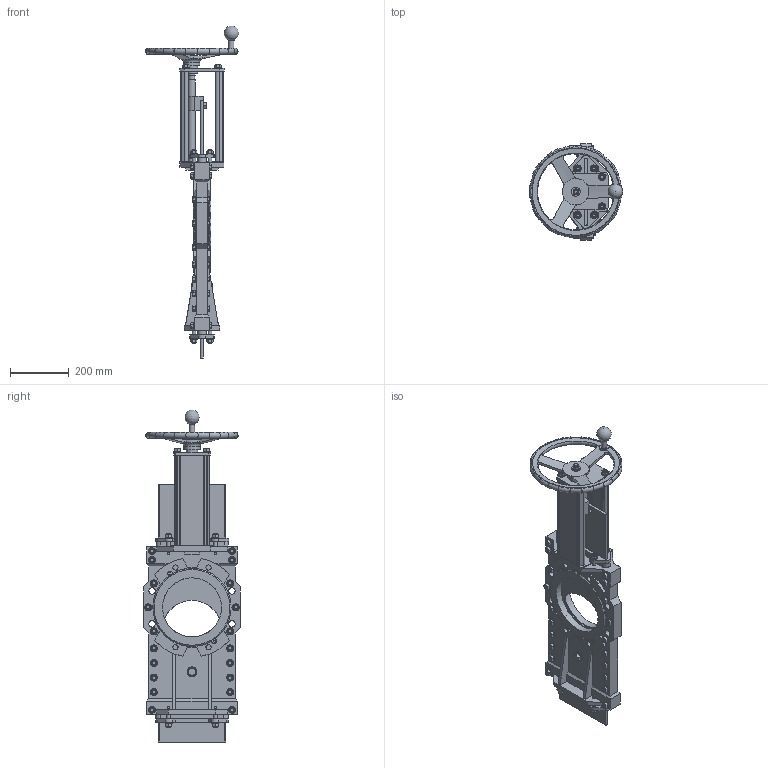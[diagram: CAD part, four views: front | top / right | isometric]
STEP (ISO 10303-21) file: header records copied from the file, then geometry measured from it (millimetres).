
FILE_DESCRIPTION(('STEP AP203'),'1');
FILE_NAME('G:/KONSTRUK/3-d block för CD/HG VALVE/HAND WHEEL/HG200-PN10-HW.stp','2012-02-08T14:21:35',(' '),(' '),'Spatial InterOp 3D',' ',' ');
FILE_SCHEMA(('CONFIG_CONTROL_DESIGN'));
Length unit declared in the file: metre
Products named in the file (1): 1
Bounding box: 318.75 x 330 x 1134.49 mm (x, y, z)
Volume: 9863659.4 mm3; surface area: 1922064.9 mm2
Topology: 1 solids, 14 shells, 1996 faces, 4665 edges, 2933 vertices
Faces by surface type: plane 968, cone 646, cylinder 344, torus 31, bspline 6, sphere 1
Full cylindrical faces by diameter (mm): 10.25 x13, 12 x49, 12.5 x20, 12.793 x34, 13 x6, 14 x2, 15 x9, 16.818 x2, 17.5 x8, 18 x1, 20 x2, 22 x4, 23 x1, 24 x35, 26.4 x1, 26.5 x1, 27 x1, 28 x2, 30 x2, 30.35 x1, 31.875 x2, 40 x2, 55 x1, 202 x3, 210 x3, 226 x2, 229 x2, 244 x2, 267 x2, 297 x1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
Entity records: 60364 total; most frequent: CARTESIAN_POINT 17988, DIRECTION 8531, ORIENTED_EDGE 8388, EDGE_CURVE 4194, AXIS2_PLACEMENT_3D 3527, VERTEX_POINT 2771, EDGE_LOOP 2617, FACE_OUTER_BOUND 2216
